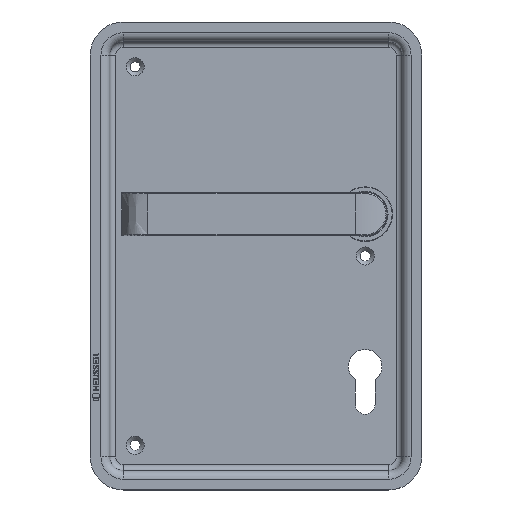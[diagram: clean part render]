
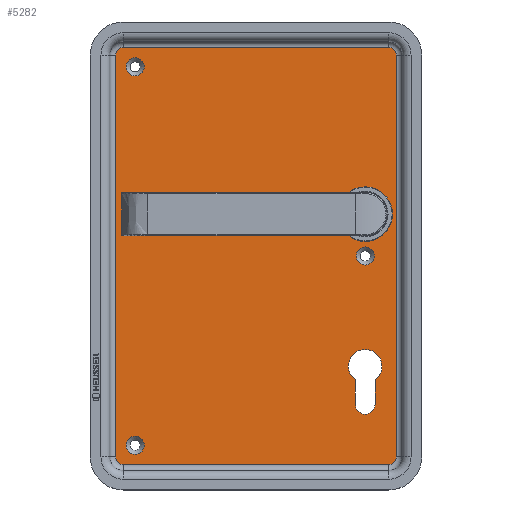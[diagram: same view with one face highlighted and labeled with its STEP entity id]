
A CAD part, top view. The second image highlights one B-rep face of the part: STEP entity #5282.
In plain terms, the highlighted planar face has unit normal (0, 0, 1).
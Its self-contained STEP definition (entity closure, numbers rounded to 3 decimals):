
#291=LINE('',#7456,#693);
#293=LINE('',#7474,#695);
#294=LINE('',#7477,#696);
#296=LINE('',#7494,#698);
#349=LINE('',#7718,#751);
#350=LINE('',#7721,#752);
#693=VECTOR('',#6160,10.);
#695=VECTOR('',#6182,10.);
#696=VECTOR('',#6185,10.);
#698=VECTOR('',#6207,10.);
#751=VECTOR('',#6464,10.);
#752=VECTOR('',#6467,10.);
#1169=FACE_BOUND('',#1643,.T.);
#1170=FACE_BOUND('',#1644,.T.);
#1171=FACE_BOUND('',#1645,.T.);
#1172=FACE_BOUND('',#1646,.T.);
#1173=FACE_BOUND('',#1647,.T.);
#1307=FACE_OUTER_BOUND('',#1642,.T.);
#1642=EDGE_LOOP('',(#3675,#3676,#3677,#3678,#3679,#3680,#3681,#3682));
#1643=EDGE_LOOP('',(#3683));
#1644=EDGE_LOOP('',(#3684,#3685,#3686,#3687));
#1645=EDGE_LOOP('',(#3688));
#1646=EDGE_LOOP('',(#3689));
#1647=EDGE_LOOP('',(#3690));
#1967=CIRCLE('',#5601,4.);
#1968=CIRCLE('',#5603,4.);
#1975=CIRCLE('',#5613,4.);
#1976=CIRCLE('',#5615,4.);
#2025=CIRCLE('',#5715,4.65);
#2026=CIRCLE('',#5717,4.65);
#2027=CIRCLE('',#5719,14.);
#2028=CIRCLE('',#5720,8.6);
#2029=CIRCLE('',#5721,5.1);
#2030=CIRCLE('',#5722,4.65);
#2151=VERTEX_POINT('',#7450);
#2153=VERTEX_POINT('',#7454);
#2155=VERTEX_POINT('',#7460);
#2156=VERTEX_POINT('',#7464);
#2159=VERTEX_POINT('',#7472);
#2160=VERTEX_POINT('',#7476);
#2163=VERTEX_POINT('',#7484);
#2164=VERTEX_POINT('',#7488);
#2225=VERTEX_POINT('',#7706);
#2226=VERTEX_POINT('',#7709);
#2227=VERTEX_POINT('',#7712);
#2228=VERTEX_POINT('',#7714);
#2229=VERTEX_POINT('',#7715);
#2230=VERTEX_POINT('',#7717);
#2231=VERTEX_POINT('',#7719);
#2232=VERTEX_POINT('',#7722);
#2658=EDGE_CURVE('',#2153,#2151,#291,.T.);
#2661=EDGE_CURVE('',#2155,#2153,#1967,.T.);
#2662=EDGE_CURVE('',#2151,#2156,#1968,.T.);
#2667=EDGE_CURVE('',#2159,#2155,#293,.T.);
#2668=EDGE_CURVE('',#2156,#2160,#294,.T.);
#2673=EDGE_CURVE('',#2163,#2159,#1975,.T.);
#2674=EDGE_CURVE('',#2160,#2164,#1976,.T.);
#2677=EDGE_CURVE('',#2164,#2163,#296,.T.);
#2778=EDGE_CURVE('',#2225,#2225,#2025,.T.);
#2779=EDGE_CURVE('',#2226,#2226,#2026,.T.);
#2780=EDGE_CURVE('',#2227,#2227,#2027,.T.);
#2781=EDGE_CURVE('',#2228,#2229,#2028,.T.);
#2782=EDGE_CURVE('',#2229,#2230,#349,.T.);
#2783=EDGE_CURVE('',#2230,#2231,#2029,.T.);
#2784=EDGE_CURVE('',#2231,#2228,#350,.T.);
#2785=EDGE_CURVE('',#2232,#2232,#2030,.T.);
#3675=ORIENTED_EDGE('',*,*,#2677,.F.);
#3676=ORIENTED_EDGE('',*,*,#2674,.F.);
#3677=ORIENTED_EDGE('',*,*,#2668,.F.);
#3678=ORIENTED_EDGE('',*,*,#2662,.F.);
#3679=ORIENTED_EDGE('',*,*,#2658,.F.);
#3680=ORIENTED_EDGE('',*,*,#2661,.F.);
#3681=ORIENTED_EDGE('',*,*,#2667,.F.);
#3682=ORIENTED_EDGE('',*,*,#2673,.F.);
#3683=ORIENTED_EDGE('',*,*,#2780,.T.);
#3684=ORIENTED_EDGE('',*,*,#2781,.T.);
#3685=ORIENTED_EDGE('',*,*,#2782,.T.);
#3686=ORIENTED_EDGE('',*,*,#2783,.T.);
#3687=ORIENTED_EDGE('',*,*,#2784,.T.);
#3688=ORIENTED_EDGE('',*,*,#2779,.F.);
#3689=ORIENTED_EDGE('',*,*,#2778,.F.);
#3690=ORIENTED_EDGE('',*,*,#2785,.F.);
#4778=PLANE('',#5718);
#5282=ADVANCED_FACE('',(#1307,#1169,#1170,#1171,#1172,#1173),#4778,.T.);
#5601=AXIS2_PLACEMENT_3D('',#7462,#6167,#6168);
#5603=AXIS2_PLACEMENT_3D('',#7465,#6171,#6172);
#5613=AXIS2_PLACEMENT_3D('',#7486,#6195,#6196);
#5615=AXIS2_PLACEMENT_3D('',#7489,#6199,#6200);
#5715=AXIS2_PLACEMENT_3D('',#7707,#6452,#6453);
#5717=AXIS2_PLACEMENT_3D('',#7710,#6456,#6457);
#5718=AXIS2_PLACEMENT_3D('',#7711,#6458,#6459);
#5719=AXIS2_PLACEMENT_3D('',#7713,#6460,#6461);
#5720=AXIS2_PLACEMENT_3D('',#7716,#6462,#6463);
#5721=AXIS2_PLACEMENT_3D('',#7720,#6465,#6466);
#5722=AXIS2_PLACEMENT_3D('',#7723,#6468,#6469);
#6160=DIRECTION('',(0.,-1.,0.));
#6167=DIRECTION('center_axis',(0.,0.,-1.));
#6168=DIRECTION('ref_axis',(0.707,0.707,0.));
#6171=DIRECTION('center_axis',(0.,0.,-1.));
#6172=DIRECTION('ref_axis',(0.707,-0.707,0.));
#6182=DIRECTION('',(1.,0.,0.));
#6185=DIRECTION('',(-1.,0.,0.));
#6195=DIRECTION('center_axis',(0.,0.,-1.));
#6196=DIRECTION('ref_axis',(-0.707,0.707,0.));
#6199=DIRECTION('center_axis',(0.,0.,-1.));
#6200=DIRECTION('ref_axis',(-0.707,-0.707,0.));
#6207=DIRECTION('',(0.,1.,0.));
#6452=DIRECTION('center_axis',(0.,0.,1.));
#6453=DIRECTION('ref_axis',(-1.,0.,0.));
#6456=DIRECTION('center_axis',(0.,0.,1.));
#6457=DIRECTION('ref_axis',(-1.,0.,0.));
#6458=DIRECTION('center_axis',(0.,0.,1.));
#6459=DIRECTION('ref_axis',(1.,0.,0.));
#6460=DIRECTION('center_axis',(0.,0.,-1.));
#6461=DIRECTION('ref_axis',(1.,0.,0.));
#6462=DIRECTION('center_axis',(0.,0.,-1.));
#6463=DIRECTION('ref_axis',(-0.593,0.805,0.));
#6464=DIRECTION('',(0.,-1.,0.));
#6465=DIRECTION('center_axis',(0.,0.,-1.));
#6466=DIRECTION('ref_axis',(1.,0.,0.));
#6467=DIRECTION('',(0.,1.,0.));
#6468=DIRECTION('center_axis',(0.,0.,1.));
#6469=DIRECTION('ref_axis',(-1.,0.,0.));
#7450=CARTESIAN_POINT('',(70.865,-93.546,-5.5));
#7454=CARTESIAN_POINT('',(70.865,112.454,-5.5));
#7456=CARTESIAN_POINT('',(70.865,60.954,-5.5));
#7460=CARTESIAN_POINT('',(66.865,116.454,-5.5));
#7462=CARTESIAN_POINT('Origin',(66.865,112.454,-5.5));
#7464=CARTESIAN_POINT('',(66.865,-97.546,-5.5));
#7465=CARTESIAN_POINT('Origin',(66.865,-93.546,-5.5));
#7472=CARTESIAN_POINT('',(-69.135,116.454,-5.5));
#7474=CARTESIAN_POINT('',(-35.135,116.454,-5.5));
#7476=CARTESIAN_POINT('',(-69.135,-97.546,-5.5));
#7477=CARTESIAN_POINT('',(32.865,-97.546,-5.5));
#7484=CARTESIAN_POINT('',(-73.135,112.454,-5.5));
#7486=CARTESIAN_POINT('Origin',(-69.135,112.454,-5.5));
#7488=CARTESIAN_POINT('',(-73.135,-93.546,-5.5));
#7489=CARTESIAN_POINT('Origin',(-69.135,-93.546,-5.5));
#7494=CARTESIAN_POINT('',(-73.135,-42.046,-5.5));
#7706=CARTESIAN_POINT('',(-58.485,106.454,-5.5));
#7707=CARTESIAN_POINT('Origin',(-63.135,106.454,-5.5));
#7709=CARTESIAN_POINT('',(59.515,9.454,-5.5));
#7710=CARTESIAN_POINT('Origin',(54.865,9.454,-5.5));
#7711=CARTESIAN_POINT('Origin',(-1.135,9.454,-5.5));
#7712=CARTESIAN_POINT('',(40.865,30.954,-5.5));
#7713=CARTESIAN_POINT('Origin',(54.865,30.954,-5.5));
#7714=CARTESIAN_POINT('',(49.765,-53.97,-5.5));
#7715=CARTESIAN_POINT('',(59.965,-53.97,-5.5));
#7716=CARTESIAN_POINT('Origin',(54.865,-47.046,-5.5));
#7717=CARTESIAN_POINT('',(59.965,-66.546,-5.5));
#7718=CARTESIAN_POINT('',(59.965,-22.258,-5.5));
#7719=CARTESIAN_POINT('',(49.765,-66.546,-5.5));
#7720=CARTESIAN_POINT('Origin',(54.865,-66.546,-5.5));
#7721=CARTESIAN_POINT('',(49.765,-28.546,-5.5));
#7722=CARTESIAN_POINT('',(-58.485,-87.546,-5.5));
#7723=CARTESIAN_POINT('Origin',(-63.135,-87.546,-5.5));
